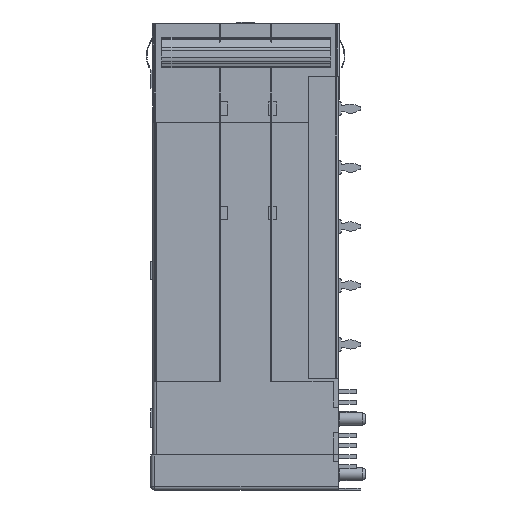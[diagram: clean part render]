
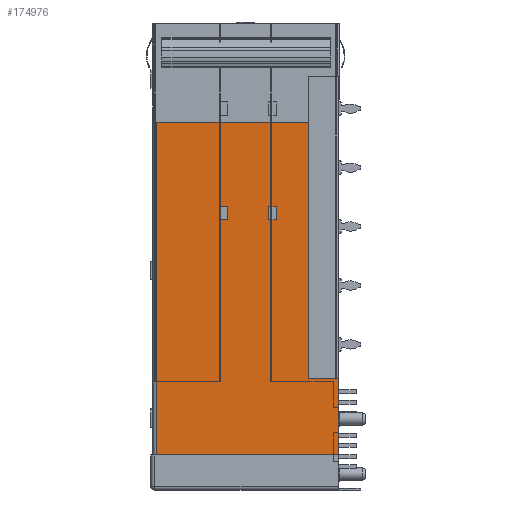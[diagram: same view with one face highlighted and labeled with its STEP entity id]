
A CAD part, left-side view. The second image highlights one B-rep face of the part: STEP entity #174976.
In plain terms, the highlighted planar face has unit normal (-1, 0, 0).
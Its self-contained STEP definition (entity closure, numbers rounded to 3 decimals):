
#70 = EDGE_CURVE ( 'NONE', #127400, #17435, #27948, .T. ) ;
#780 = CARTESIAN_POINT ( 'NONE',  ( -85.625, 4.1, -48.1 ) ) ;
#1611 = VERTEX_POINT ( 'NONE', #141017 ) ;
#2923 = DIRECTION ( 'NONE',  ( 0., 0., 1. ) ) ;
#4355 = AXIS2_PLACEMENT_3D ( 'NONE', #72466, #192692, #102678 ) ;
#4930 = CARTESIAN_POINT ( 'NONE',  ( -85.625, 4.1, -7.1 ) ) ;
#6925 = CARTESIAN_POINT ( 'NONE',  ( -85.625, 4.1, -13.4 ) ) ;
#9896 = EDGE_CURVE ( 'NONE', #80443, #25195, #131661, .T. ) ;
#10963 = CARTESIAN_POINT ( 'NONE',  ( -85.625, 15., -24.8 ) ) ;
#12195 = CARTESIAN_POINT ( 'NONE',  ( -85.625, 16., -26.6 ) ) ;
#15053 = EDGE_CURVE ( 'NONE', #1611, #25195, #153672, .T. ) ;
#16207 = EDGE_CURVE ( 'NONE', #35129, #80443, #101334, .T. ) ;
#16488 = EDGE_CURVE ( 'NONE', #84492, #127400, #89477, .T. ) ;
#16650 = CARTESIAN_POINT ( 'NONE',  ( -85.625, 15., -24.8 ) ) ;
#17207 = CARTESIAN_POINT ( 'NONE',  ( -85.625, 16., -24.8 ) ) ;
#17435 = VERTEX_POINT ( 'NONE', #139590 ) ;
#19642 = ORIENTED_EDGE ( 'NONE', *, *, #66800, .T. ) ;
#21444 = EDGE_CURVE ( 'NONE', #89480, #105335, #42301, .T. ) ;
#25195 = VERTEX_POINT ( 'NONE', #6925 ) ;
#26216 = CARTESIAN_POINT ( 'NONE',  ( -85.625, 8.45, -24.8 ) ) ;
#26456 = CARTESIAN_POINT ( 'NONE',  ( -85.625, 9.45, -26.6 ) ) ;
#27064 = PLANE ( 'NONE',  #4355 ) ;
#27948 = LINE ( 'NONE', #126998, #138643 ) ;
#29503 = DIRECTION ( 'NONE',  ( 0., -1., 0. ) ) ;
#31019 = CARTESIAN_POINT ( 'NONE',  ( -85.625, 24.7, -63.25 ) ) ;
#32394 = DIRECTION ( 'NONE',  ( 0., -1., 0. ) ) ;
#33001 = EDGE_CURVE ( 'NONE', #63454, #84492, #150050, .T. ) ;
#35129 = VERTEX_POINT ( 'NONE', #158830 ) ;
#37521 = FACE_OUTER_BOUND ( 'NONE', #69115, .T. ) ;
#38254 = VECTOR ( 'NONE', #29503, 1000. ) ;
#38840 = ORIENTED_EDGE ( 'NONE', *, *, #33001, .T. ) ;
#42225 = FACE_BOUND ( 'NONE', #46352, .T. ) ;
#42301 = LINE ( 'NONE', #162639, #77614 ) ;
#44530 = CARTESIAN_POINT ( 'NONE',  ( -85.625, 16., -26.6 ) ) ;
#45116 = DIRECTION ( 'NONE',  ( 0., 0., -1. ) ) ;
#46352 = EDGE_LOOP ( 'NONE', ( #80498, #38840, #117138, #183341 ) ) ;
#48073 = LINE ( 'NONE', #162428, #123417 ) ;
#49726 = CARTESIAN_POINT ( 'NONE',  ( -85.625, 0., -58.5 ) ) ;
#51649 = ORIENTED_EDGE ( 'NONE', *, *, #9896, .T. ) ;
#58119 = EDGE_CURVE ( 'NONE', #154511, #71731, #95975, .T. ) ;
#60960 = DIRECTION ( 'NONE',  ( 0., -1., 0. ) ) ;
#62334 = ORIENTED_EDGE ( 'NONE', *, *, #188857, .T. ) ;
#62772 = VECTOR ( 'NONE', #105994, 1000. ) ;
#62832 = ORIENTED_EDGE ( 'NONE', *, *, #108500, .T. ) ;
#63454 = VERTEX_POINT ( 'NONE', #26216 ) ;
#63573 = VECTOR ( 'NONE', #32394, 1000. ) ;
#65073 = ORIENTED_EDGE ( 'NONE', *, *, #15053, .F. ) ;
#66453 = VECTOR ( 'NONE', #60960, 1000. ) ;
#66800 = EDGE_CURVE ( 'NONE', #190566, #98916, #127805, .T. ) ;
#69115 = EDGE_LOOP ( 'NONE', ( #65073, #140737, #19642, #62334, #138322, #51649 ) ) ;
#70034 = VECTOR ( 'NONE', #45116, 1000. ) ;
#71731 = VERTEX_POINT ( 'NONE', #99064 ) ;
#71940 = EDGE_CURVE ( 'NONE', #71731, #89480, #88163, .T. ) ;
#72211 = LINE ( 'NONE', #31019, #62772 ) ;
#72466 = CARTESIAN_POINT ( 'NONE',  ( -85.625, 0., -63.25 ) ) ;
#77614 = VECTOR ( 'NONE', #162181, 1000. ) ;
#80443 = VERTEX_POINT ( 'NONE', #780 ) ;
#80498 = ORIENTED_EDGE ( 'NONE', *, *, #83506, .T. ) ;
#83506 = EDGE_CURVE ( 'NONE', #17435, #63454, #106366, .T. ) ;
#84492 = VERTEX_POINT ( 'NONE', #188204 ) ;
#88163 = LINE ( 'NONE', #12195, #132963 ) ;
#88391 = CARTESIAN_POINT ( 'NONE',  ( -85.625, 16., -24.8 ) ) ;
#89477 = LINE ( 'NONE', #92481, #164801 ) ;
#89480 = VERTEX_POINT ( 'NONE', #44530 ) ;
#91278 = VECTOR ( 'NONE', #191164, 1000. ) ;
#91593 = VECTOR ( 'NONE', #2923, 1000. ) ;
#92481 = CARTESIAN_POINT ( 'NONE',  ( -85.625, 9.45, -26.6 ) ) ;
#92725 = DIRECTION ( 'NONE',  ( 0., 1., 0. ) ) ;
#95975 = LINE ( 'NONE', #10963, #91278 ) ;
#98916 = VERTEX_POINT ( 'NONE', #49726 ) ;
#99064 = CARTESIAN_POINT ( 'NONE',  ( -85.625, 15., -26.6 ) ) ;
#101334 = LINE ( 'NONE', #149979, #176667 ) ;
#102678 = DIRECTION ( 'NONE',  ( 0., 0., 1. ) ) ;
#103518 = LINE ( 'NONE', #17207, #63573 ) ;
#105335 = VERTEX_POINT ( 'NONE', #88391 ) ;
#105994 = DIRECTION ( 'NONE',  ( 0., 0., -1. ) ) ;
#106366 = LINE ( 'NONE', #192984, #66453 ) ;
#108500 = EDGE_CURVE ( 'NONE', #105335, #154511, #103518, .T. ) ;
#108529 = EDGE_LOOP ( 'NONE', ( #62832, #122168, #139907, #165762 ) ) ;
#117138 = ORIENTED_EDGE ( 'NONE', *, *, #16488, .T. ) ;
#117553 = DIRECTION ( 'NONE',  ( 0., 1., 0. ) ) ;
#117590 = FACE_BOUND ( 'NONE', #108529, .T. ) ;
#117717 = DIRECTION ( 'NONE',  ( 0., 0., 1. ) ) ;
#119638 = CARTESIAN_POINT ( 'NONE',  ( -85.625, 25.2, -58.5 ) ) ;
#122168 = ORIENTED_EDGE ( 'NONE', *, *, #58119, .T. ) ;
#123417 = VECTOR ( 'NONE', #117717, 1000. ) ;
#126998 = CARTESIAN_POINT ( 'NONE',  ( -85.625, 9.45, -24.8 ) ) ;
#127400 = VERTEX_POINT ( 'NONE', #26456 ) ;
#127805 = LINE ( 'NONE', #119638, #38254 ) ;
#130464 = DIRECTION ( 'NONE',  ( 0., 0., 1. ) ) ;
#131661 = LINE ( 'NONE', #4930, #91593 ) ;
#132963 = VECTOR ( 'NONE', #117553, 1000. ) ;
#135315 = CARTESIAN_POINT ( 'NONE',  ( -85.625, 8.45, -24.8 ) ) ;
#136544 = CARTESIAN_POINT ( 'NONE',  ( -85.625, 24.7, -58.5 ) ) ;
#138322 = ORIENTED_EDGE ( 'NONE', *, *, #16207, .T. ) ;
#138643 = VECTOR ( 'NONE', #130464, 1000. ) ;
#139590 = CARTESIAN_POINT ( 'NONE',  ( -85.625, 9.45, -24.8 ) ) ;
#139907 = ORIENTED_EDGE ( 'NONE', *, *, #71940, .T. ) ;
#140253 = CARTESIAN_POINT ( 'NONE',  ( -85.625, 25.2, -13.4 ) ) ;
#140475 = DIRECTION ( 'NONE',  ( 0., -1., 0. ) ) ;
#140737 = ORIENTED_EDGE ( 'NONE', *, *, #143742, .T. ) ;
#141017 = CARTESIAN_POINT ( 'NONE',  ( -85.625, 24.7, -13.4 ) ) ;
#143742 = EDGE_CURVE ( 'NONE', #1611, #190566, #72211, .T. ) ;
#149979 = CARTESIAN_POINT ( 'NONE',  ( -85.625, 0., -48.1 ) ) ;
#150050 = LINE ( 'NONE', #135315, #70034 ) ;
#151026 = DIRECTION ( 'NONE',  ( 0., 1., 0. ) ) ;
#153672 = LINE ( 'NONE', #140253, #188861 ) ;
#154511 = VERTEX_POINT ( 'NONE', #16650 ) ;
#158830 = CARTESIAN_POINT ( 'NONE',  ( -85.625, 0., -48.1 ) ) ;
#162181 = DIRECTION ( 'NONE',  ( 0., 0., 1. ) ) ;
#162428 = CARTESIAN_POINT ( 'NONE',  ( -85.625, 0., -63.25 ) ) ;
#162639 = CARTESIAN_POINT ( 'NONE',  ( -85.625, 16., -24.8 ) ) ;
#164801 = VECTOR ( 'NONE', #92725, 1000. ) ;
#165762 = ORIENTED_EDGE ( 'NONE', *, *, #21444, .T. ) ;
#174976 = ADVANCED_FACE ( 'NONE', ( #42225, #117590, #37521 ), #27064, .T. ) ;
#176667 = VECTOR ( 'NONE', #151026, 1000. ) ;
#183341 = ORIENTED_EDGE ( 'NONE', *, *, #70, .T. ) ;
#188204 = CARTESIAN_POINT ( 'NONE',  ( -85.625, 8.45, -26.6 ) ) ;
#188857 = EDGE_CURVE ( 'NONE', #98916, #35129, #48073, .T. ) ;
#188861 = VECTOR ( 'NONE', #140475, 1000. ) ;
#190566 = VERTEX_POINT ( 'NONE', #136544 ) ;
#191164 = DIRECTION ( 'NONE',  ( 0., 0., -1. ) ) ;
#192692 = DIRECTION ( 'NONE',  ( -1., 0., 0. ) ) ;
#192984 = CARTESIAN_POINT ( 'NONE',  ( -85.625, 9.45, -24.8 ) ) ;
